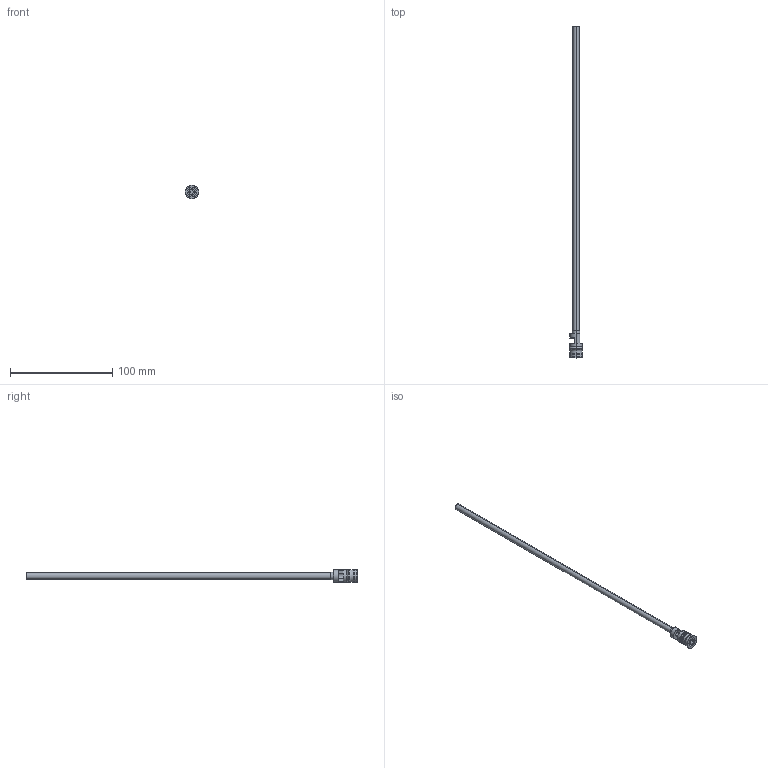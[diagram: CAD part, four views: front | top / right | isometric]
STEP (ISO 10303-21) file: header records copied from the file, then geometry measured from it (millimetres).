
FILE_DESCRIPTION (( 'STEP AP203' ), '1' );
FILE_NAME ('RF-12Fx300.STEP', '2017-12-04T07:52:38', ( 'Balzi' ), ( '' ), 'SwSTEP 2.0', 'SolidWorks 2017', '' );
FILE_SCHEMA (( 'CONFIG_CONTROL_DESIGN' ));
Length unit declared in the file: millimetre
Products named in the file (1): RF-12Fx300
Bounding box: 13.3 x 324 x 13.3 mm (x, y, z)
Volume: 4457.3 mm3; surface area: 12029 mm2
Topology: 1 solids, 1 shells, 72 faces, 164 edges, 102 vertices
Faces by surface type: cylinder 26, plane 26, cone 12, torus 8
Entity records: 2124 total; most frequent: DIRECTION 387, CARTESIAN_POINT 358, ORIENTED_EDGE 328, EDGE_CURVE 164, AXIS2_PLACEMENT_3D 155, VERTEX_POINT 102, EDGE_LOOP 82, CIRCLE 82
